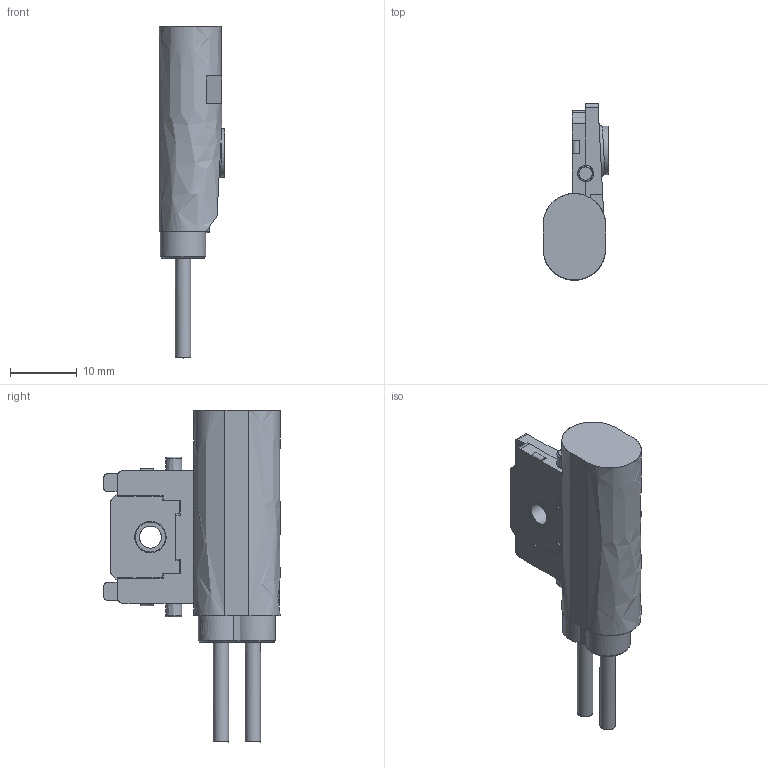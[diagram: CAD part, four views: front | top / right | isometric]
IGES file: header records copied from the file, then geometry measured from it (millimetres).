
Start section: C
Global section: file name: EE10238.igs; native system:  By UGS Corp.; preprocessor: XPlus GENERIC/IGES 3.0; author: Author; organization: Title; date: 20140811.165052; units: millimetre
Bounding box: 9.9 x 26.5 x 49.9 mm (x, y, z)
Surface area: 2764.1 mm2 (no closed solid volume)
Topology: 0 solids, 0 shells, 156 faces, 924 edges, 924 vertices
Faces by surface type: bspline 156
